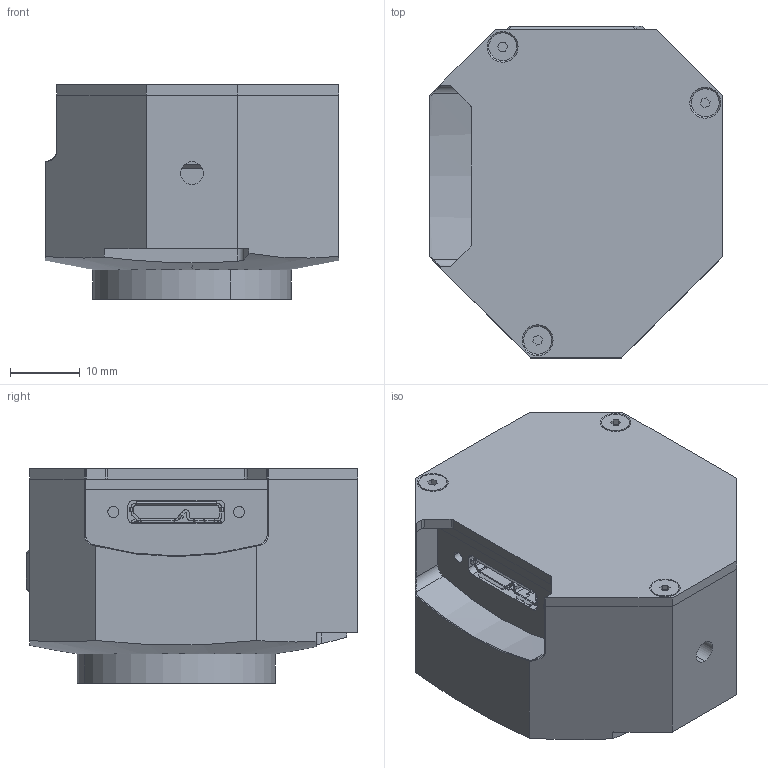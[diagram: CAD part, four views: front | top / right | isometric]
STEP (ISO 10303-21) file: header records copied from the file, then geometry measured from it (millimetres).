
FILE_DESCRIPTION (( 'STEP AP214' ), '1' );
FILE_NAME ('犀OC.STEP', '2024-07-18T14:01:10', ( '' ), ( '' ), 'SwSTEP 2.0', 'SolidWorks 2020', '' );
FILE_SCHEMA (( 'AUTOMOTIVE_DESIGN' ));
Length unit declared in the file: millimetre
Products named in the file (1): 犀OC
Bounding box: 42 x 47.5 x 30.75 mm (x, y, z)
Surface area: 10269.4 mm2 (no closed solid volume)
Topology: 0 solids, 12 shells, 198 faces, 1120 edges, 936 vertices
Faces by surface type: plane 106, cylinder 79, cone 6, bspline 4, sphere 2, torus 1
Entity records: 14471 total; most frequent: CARTESIAN_POINT 5207, ORIENTED_EDGE 1515, EDGE_CURVE 1120, VERTEX_POINT 936, DIRECTION 834, B_SPLINE_CURVE_WITH_KNOTS 782, AXIS2_PLACEMENT_3D 313, EDGE_LOOP 311
